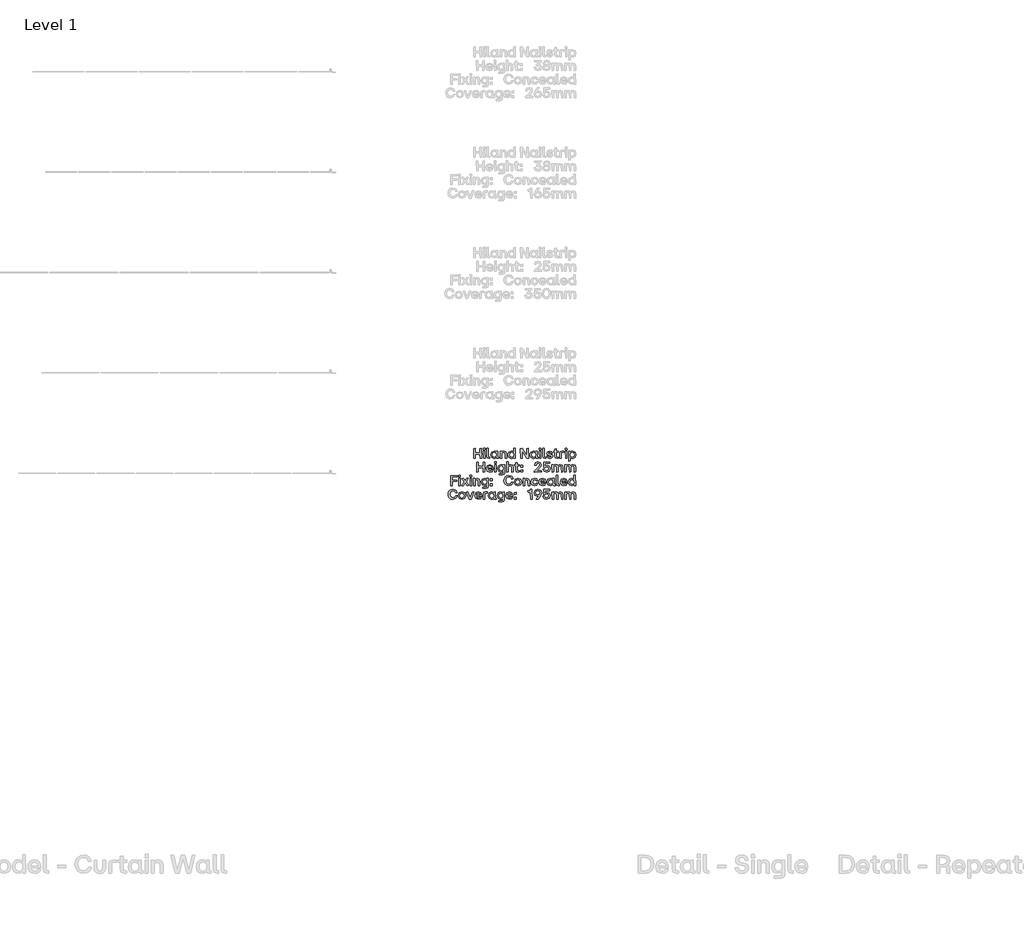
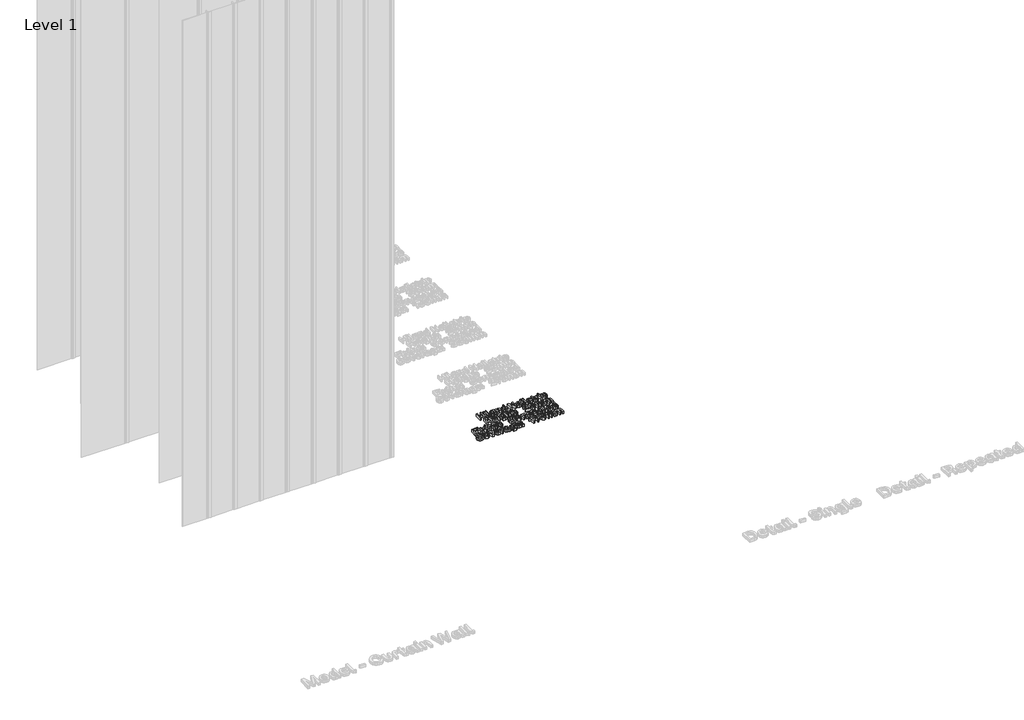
# One storey, part 25 of 64: 1 proxy.
"""IFC4 building model written with IfcOpenShell, lengths in millimetres."""

from ifc_helpers import new_model, si_unit, origin, origin_with_axes, place, context, project, spatial, polyline, outline, extrude, element, save

model = new_model("IFC4")

# Units and contexts
model_context = context("Model", 3, world=origin())
ifc_project = project(units=[si_unit("LENGTHUNIT", "METRE", prefix="MILLI")], contexts=[model_context])

# Site, building, storey
site = spatial("IfcSite", under=ifc_project)
building = spatial("IfcBuilding", under=site)
storey = spatial("IfcBuildingStorey", under=building, Name="Level 1", Elevation=0.0)

# Proxy
placement = place(None, origin())
element("IfcBuildingElementProxy", 1, Name="50mm", ObjectType="50mm", at=placement, inside=storey, context=model_context, shape_type="SweptSolid", body=[
    extrude(outline(polyline([(2520.0683519, -4433.5188866), (2519.3710201, -4411.5808277), (2495.5222721, -4411.5808277), (2495.5222721, -4432.8215548), (2488.0189817, -4433.5188866), (2487.2937566, -4384.2454206), (2494.7831003, -4383.5201955), (2495.5222721, -4404.6075096), (2519.3710201, -4404.6075096), (2519.3710201, -4384.2454206), (2526.8603638, -4383.5201955), (2527.5576956, -4432.8215548), (2520.0683519, -4433.5188866)])), origin_with_axes(), (0.0, 0.0, 1.0), 20.0),
    extrude(outline(polyline([(2537.6550603, -4433.5188866), (2536.9298352, -4397.8154977), (2544.1402462, -4397.1181659), (2544.837578, -4432.8215548), (2537.6550603, -4433.5188866)])), origin_with_axes(), (0.0, 0.0, 1.0), 20.0),
    extrude(outline(polyline([(2536.7206357, -4390.4516737), (2536.3719698, -4382.4044646), (2544.7678448, -4381.6652929), (2545.5070165, -4390.1030078), (2536.7206357, -4390.4516737)])), origin_with_axes(), (0.0, 0.0, 1.0), 20.0),
    extrude(outline(polyline([(2564.2373491, -4433.5188866), (2556.5388058, -4430.8690257), (2553.8889449, -4423.1565359), (2553.8889449, -4382.8228637), (2561.0993559, -4382.083692), (2561.7966877, -4427.2429003), (2568.4631799, -4427.2429003), (2569.1605117, -4432.8215548), (2564.2373491, -4433.5188866)])), origin_with_axes(), (0.0, 0.0, 1.0), 20.0),
    extrude(outline(polyline([(2589.3273478, -4433.9372857), (2577.5563867, -4428.8955767), (2573.1771429, -4415.3882594), (2577.5563867, -4401.7484491), (2589.3273478, -4396.6579269), (2595.9450267, -4398.2617901), (2600.9309491, -4402.6549805), (2601.2517218, -4397.8154977), (2608.4342395, -4397.1181659), (2609.1594646, -4427.2429003), (2613.1063626, -4427.2429003), (2613.8036944, -4432.8215548), (2607.8066408, -4433.5188866), (2603.151951, -4432.2113895), (2601.6003877, -4428.288898), (2596.2448794, -4432.3334225), (2589.3273478, -4433.9372857)]), holes=[polyline([(2581.2382987, -4415.3882594), (2583.9927594, -4424.2792401), (2591.5169696, -4427.521833), (2598.8807936, -4424.2931867), (2601.5306545, -4415.3882594), (2598.8598737, -4406.392679), (2591.5169696, -4403.1152195), (2583.9927594, -4406.392679), (2581.2382987, -4415.3882594)])]), origin_with_axes(), (0.0, 0.0, 1.0), 20.0),
    extrude(outline(polyline([(2620.6654395, -4433.5188866), (2619.9402144, -4397.8154977), (2626.8019595, -4397.1181659), (2627.4992913, -4402.6549805), (2632.6630334, -4398.1571903), (2639.2841989, -4396.6579269), (2648.8446181, -4400.8419178), (2652.1569442, -4413.0870644), (2652.1569442, -4432.8215548), (2644.9325866, -4433.5188866), (2644.2073616, -4413.0870644), (2642.2548325, -4405.7092939), (2636.0834459, -4403.3941522), (2629.8562728, -4405.7441604), (2627.8479572, -4413.0870644), (2627.8479572, -4432.8215548), (2620.6654395, -4433.5188866)])), origin_with_axes(), (0.0, 0.0, 1.0), 20.0),
    extrude(outline(polyline([(2675.0154811, -4433.9372857), (2663.2445201, -4428.8955767), (2658.8652763, -4415.3882594), (2663.2445201, -4401.7484491), (2675.0154811, -4396.6579269), (2681.63316, -4398.2617901), (2686.6190825, -4402.6549805), (2686.9398552, -4382.8228637), (2694.1223728, -4382.083692), (2694.8475979, -4432.8215548), (2687.9858529, -4433.5188866), (2687.2885211, -4428.0099653), (2681.9330127, -4432.3334225), (2675.0154811, -4433.9372857)]), holes=[polyline([(2666.9264321, -4415.3882594), (2669.6808927, -4424.2792401), (2677.205103, -4427.521833), (2684.568927, -4424.2931867), (2687.2187879, -4415.3882594), (2684.548007, -4406.392679), (2677.205103, -4403.1152195), (2669.6808927, -4406.392679), (2666.9264321, -4415.3882594)])]), origin_with_axes(), (0.0, 0.0, 1.0), 20.0),
    extrude(outline(polyline([(2721.8761791, -4433.5188866), (2721.150954, -4384.2454206), (2730.007068, -4383.5201955), (2753.2979506, -4420.7856077), (2753.5768834, -4384.2454206), (2760.7872943, -4383.5201955), (2761.4846261, -4432.8215548), (2752.670352, -4433.5188866), (2729.3794694, -4396.2395278), (2729.1005367, -4432.8215548), (2721.8761791, -4433.5188866)])), origin_with_axes(), (0.0, 0.0, 1.0), 20.0),
    extrude(outline(polyline([(2784.803402, -4433.9372857), (2773.032441, -4428.8955767), (2768.6531972, -4415.3882594), (2773.032441, -4401.7484491), (2784.803402, -4396.6579269), (2791.4210809, -4398.2617901), (2796.4070034, -4402.6549805), (2796.727776, -4397.8154977), (2803.9102937, -4397.1181659), (2804.6355188, -4427.2429003), (2808.5824169, -4427.2429003), (2809.2797487, -4432.8215548), (2803.2826951, -4433.5188866), (2798.6280052, -4432.2113895), (2797.076442, -4428.288898), (2791.7209336, -4432.3334225), (2784.803402, -4433.9372857)]), holes=[polyline([(2776.714353, -4415.3882594), (2779.4688136, -4424.2792401), (2786.9930239, -4427.521833), (2794.3568479, -4424.2931867), (2797.0067088, -4415.3882594), (2794.3359279, -4406.392679), (2786.9930239, -4403.1152195), (2779.4688136, -4406.392679), (2776.714353, -4415.3882594)])]), origin_with_axes(), (0.0, 0.0, 1.0), 20.0),
    extrude(outline(polyline([(2815.2070691, -4390.4516737), (2814.8584032, -4382.4044646), (2823.2542783, -4381.6652929), (2823.99345, -4390.1030078), (2815.2070691, -4390.4516737)])), origin_with_axes(), (0.0, 0.0, 1.0), 20.0),
    extrude(outline(polyline([(2816.1414938, -4433.5188866), (2815.4162687, -4397.8154977), (2822.6266796, -4397.1181659), (2823.3240115, -4432.8215548), (2816.1414938, -4433.5188866)])), origin_with_axes(), (0.0, 0.0, 1.0), 20.0),
    extrude(outline(polyline([(2842.7237825, -4433.5188866), (2835.0252393, -4430.8690257), (2832.3753784, -4423.1565359), (2832.3753784, -4382.8228637), (2839.5857894, -4382.083692), (2840.2831212, -4427.2429003), (2846.9496133, -4427.2429003), (2847.6469451, -4432.8215548), (2842.7237825, -4433.5188866)])), origin_with_axes(), (0.0, 0.0, 1.0), 20.0),
    extrude(outline(polyline([(2867.283809, -4433.9372857), (2856.5518724, -4430.9875721), (2852.0819755, -4422.5289372), (2859.0274004, -4421.7339789), (2862.109607, -4426.5455685), (2867.283809, -4427.8007657), (2871.7467327, -4426.6153017), (2873.420329, -4423.4354686), (2872.2209183, -4420.5764081), (2868.1624471, -4419.0841181), (2863.0719249, -4418.1775867), (2855.3454884, -4414.6351411), (2852.8490405, -4407.5363032), (2856.5100325, -4399.6215871), (2866.3772777, -4396.6579269), (2876.0701899, -4399.4123876), (2880.2960207, -4407.2294772), (2873.3505958, -4408.0244355), (2870.6031085, -4403.8613645), (2866.3772777, -4402.7944469), (2862.1235536, -4403.8962311), (2860.6591568, -4407.0900108), (2861.7051545, -4409.8584181), (2865.5125862, -4411.3716282), (2870.9517744, -4412.3897326), (2878.9641169, -4415.8763917), (2881.2304453, -4423.0170695), (2877.6043199, -4431.1130919), (2867.283809, -4433.9372857)])), origin_with_axes(), (0.0, 0.0, 1.0), 20.0),
    extrude(outline(polyline([(2903.0429845, -4433.5188866), (2895.3304946, -4430.8690257), (2892.6806337, -4423.1565359), (2892.6806337, -4403.3941522), (2886.4743806, -4403.3941522), (2885.7491555, -4397.8154977), (2892.6806337, -4397.1181659), (2892.6806337, -4387.104481), (2899.9049913, -4386.3792559), (2900.6023231, -4397.1181659), (2909.388704, -4397.1181659), (2910.1139291, -4402.6549805), (2900.6023231, -4403.3941522), (2900.6023231, -4427.2429003), (2909.388704, -4427.2429003), (2910.1139291, -4432.8215548), (2903.0429845, -4433.5188866)])), origin_with_axes(), (0.0, 0.0, 1.0), 20.0),
    extrude(outline(polyline([(2917.519593, -4433.5188866), (2916.8222612, -4407.4386768), (2919.4721221, -4399.7471068), (2927.1706653, -4397.1181659), (2937.3238165, -4397.1181659), (2938.0211483, -4403.1152195), (2924.7300039, -4403.8125513), (2924.7300039, -4432.8215548), (2917.519593, -4433.5188866)])), origin_with_axes(), (0.0, 0.0, 1.0), 20.0),
    extrude(outline(polyline([(2945.5662786, -4433.5188866), (2944.8410535, -4397.8154977), (2952.0514644, -4397.1181659), (2952.7487962, -4432.8215548), (2945.5662786, -4433.5188866)])), origin_with_axes(), (0.0, 0.0, 1.0), 20.0),
    extrude(outline(polyline([(2944.6318539, -4390.4516737), (2944.283188, -4382.4044646), (2952.6790631, -4381.6652929), (2953.4182348, -4390.1030078), (2944.6318539, -4390.4516737)])), origin_with_axes(), (0.0, 0.0, 1.0), 20.0),
    extrude(outline(polyline([(2962.5253883, -4447.0750171), (2961.8001632, -4397.8154977), (2968.6619083, -4397.1181659), (2969.3592401, -4402.5852473), (2974.7147484, -4398.2617901), (2981.63228, -4396.6579269), (2993.403241, -4401.7135826), (2997.7824848, -4415.2487931), (2993.403241, -4428.8607101), (2981.63228, -4433.9372857), (2975.0146011, -4432.3334225), (2970.0286786, -4427.9402321), (2969.707906, -4446.3776853), (2962.5253883, -4447.0750171)]), holes=[polyline([(2969.4289732, -4415.2487931), (2972.0997541, -4424.2443735), (2979.4426581, -4427.521833), (2986.9668684, -4424.2443735), (2989.7213291, -4415.2487931), (2986.9668684, -4406.3578124), (2979.4426581, -4403.1152195), (2972.0788341, -4406.3368925), (2969.4289732, -4415.2487931)])]), origin_with_axes(), (0.0, 0.0, 1.0), 20.0),
    extrude(outline(polyline([(2536.1348769, -4501.3705811), (2535.4375451, -4479.4325222), (2511.5887971, -4479.4325222), (2511.5887971, -4500.6732493), (2504.0855067, -4501.3705811), (2503.3602816, -4452.0971151), (2510.8496253, -4451.37189), (2511.5887971, -4472.459204), (2535.4375451, -4472.459204), (2535.4375451, -4452.0971151), (2542.9268888, -4451.37189), (2543.6242206, -4500.6732493), (2536.1348769, -4501.3705811)])), origin_with_axes(), (0.0, 0.0, 1.0), 20.0),
    extrude(outline(polyline([(2569.2720848, -4501.7889802), (2555.8693673, -4496.7472711), (2550.8625249, -4483.2399539), (2555.8484473, -4469.586197), (2569.2720848, -4464.5096214), (2581.552098, -4469.5164638), (2586.0498882, -4483.1702207), (2586.0498882, -4485.0809099), (2558.9934138, -4485.8200816), (2562.0616738, -4492.8631329), (2569.2720848, -4495.3735275), (2575.0599388, -4494.0974102), (2578.0584656, -4490.520098), (2585.1433569, -4489.9343393), (2580.4851803, -4498.6998002), (2569.2720848, -4501.7889802)]), holes=[polyline([(2559.063147, -4480.0322275), (2578.2676652, -4480.0322275), (2575.6247776, -4473.3866554), (2569.2720848, -4470.966914), (2562.1802202, -4473.2681089), (2559.063147, -4480.0322275)])]), origin_with_axes(), (0.0, 0.0, 1.0), 20.0),
    extrude(outline(polyline([(2592.9534732, -4458.3033682), (2592.6048073, -4450.2561591), (2601.0006823, -4449.5169873), (2601.7398541, -4457.9547023), (2592.9534732, -4458.3033682)])), origin_with_axes(), (0.0, 0.0, 1.0), 20.0),
    extrude(outline(polyline([(2593.8878978, -4501.3705811), (2593.1626727, -4465.6671922), (2600.3730837, -4464.9698603), (2601.0704155, -4500.6732493), (2593.8878978, -4501.3705811)])), origin_with_axes(), (0.0, 0.0, 1.0), 20.0),
    extrude(outline(polyline([(2615.5609706, -4514.9267115), (2614.8217989, -4509.348057), (2636.062526, -4508.6507252), (2636.062526, -4495.7919266), (2630.7558309, -4500.185117), (2624.1381519, -4501.7889802), (2612.3671909, -4496.7124045), (2607.9879471, -4483.1004875), (2612.3671909, -4469.565277), (2624.1381519, -4464.5096214), (2631.0556835, -4466.1134845), (2636.1322591, -4470.4369418), (2636.4111919, -4465.6671922), (2643.2450437, -4464.9698603), (2643.9702687, -4504.9269733), (2641.390141, -4512.3675038), (2633.9705305, -4514.9267115), (2615.5609706, -4514.9267115)]), holes=[polyline([(2616.0491029, -4483.1004875), (2618.8035636, -4492.0960679), (2626.3277738, -4495.3735275), (2633.6706778, -4492.0960679), (2636.3414587, -4483.1004875), (2633.6915978, -4474.1885869), (2626.3277738, -4470.966914), (2618.8035636, -4474.2095069), (2616.0491029, -4483.1004875)])]), origin_with_axes(), (0.0, 0.0, 1.0), 20.0),
    extrude(outline(polyline([(2653.6910742, -4501.3705811), (2652.9658492, -4450.6745581), (2660.1762601, -4449.9353864), (2660.8735919, -4470.2277422), (2665.9606275, -4465.9391516), (2672.3098337, -4464.5096214), (2681.8702529, -4468.6936122), (2685.182579, -4480.9387589), (2685.182579, -4500.6732493), (2677.9582214, -4501.3705811), (2677.2329963, -4480.9387589), (2675.2804672, -4473.5609883), (2669.1090807, -4471.2458467), (2662.8819076, -4473.5958549), (2660.8735919, -4480.9387589), (2660.8735919, -4500.6732493), (2653.6910742, -4501.3705811)])), origin_with_axes(), (0.0, 0.0, 1.0), 20.0),
    extrude(outline(polyline([(2708.459515, -4501.3705811), (2700.7470251, -4498.7207202), (2698.0971642, -4491.0082303), (2698.0971642, -4471.2458467), (2691.890911, -4471.2458467), (2691.165686, -4465.6671922), (2698.0971642, -4464.9698603), (2698.0971642, -4454.9561755), (2705.3215218, -4454.2309504), (2706.0188536, -4464.9698603), (2714.8052345, -4464.9698603), (2715.5304596, -4470.506675), (2706.0188536, -4471.2458467), (2706.0188536, -4495.0945947), (2714.8052345, -4495.0945947), (2715.5304596, -4500.6732493), (2708.459515, -4501.3705811)])), origin_with_axes(), (0.0, 0.0, 1.0), 20.0),
    extrude(outline(polyline([(2722.9361234, -4477.7310326), (2722.2387916, -4468.1078535), (2731.7225043, -4467.3686818), (2732.4477294, -4477.0337007), (2722.9361234, -4477.7310326)])), origin_with_axes(), (0.0, 0.0, 1.0), 20.0),
    extrude(outline(polyline([(2722.5874575, -4501.0219152), (2722.2387916, -4491.747402), (2731.7225043, -4491.0082303), (2732.4477294, -4500.6732493), (2722.5874575, -4501.0219152)])), origin_with_axes(), (0.0, 0.0, 1.0), 20.0),
    extrude(outline(polyline([(2790.4238964, -4501.3705811), (2789.6986714, -4496.5868848), (2807.0622335, -4480.590093), (2814.2098846, -4472.6753769), (2816.1972803, -4465.3882594), (2814.216858, -4459.7084918), (2808.2755909, -4457.8152359), (2801.4068725, -4459.8932847), (2798.5547854, -4466.4621504), (2791.1212283, -4467.1594822), (2795.7096716, -4454.9631488), (2808.2755909, -4450.9534909), (2820.1023385, -4454.8236824), (2824.4257957, -4465.3882594), (2821.7410682, -4475.1648515), (2812.5711549, -4485.5690422), (2803.1153355, -4494.0764903), (2825.8483526, -4494.355423), (2826.5456844, -4500.6732493), (2790.4238964, -4501.3705811)])), origin_with_axes(), (0.0, 0.0, 1.0), 20.0),
    extrude(outline(polyline([(2851.8030428, -4501.7889802), (2838.6025515, -4498.0931215), (2832.7937775, -4487.3821049), (2840.1576015, -4486.5871466), (2844.365999, -4493.0200326), (2851.8030428, -4494.9551284), (2859.2087066, -4492.2704009), (2861.802781, -4484.6625108), (2859.2226533, -4477.3614467), (2851.6635764, -4474.8719721), (2841.3012256, -4478.8049235), (2836.4617428, -4478.5259908), (2837.5077406, -4452.0971151), (2867.1443427, -4451.37189), (2867.8695678, -4457.6757696), (2844.1602861, -4458.3731014), (2843.3653278, -4471.0366471), (2848.5395299, -4468.8400519), (2854.2437041, -4468.0381203), (2865.7984923, -4472.4661774), (2870.0034031, -4484.6625108), (2865.1918136, -4497.27027), (2851.8030428, -4501.7889802)])), origin_with_axes(), (0.0, 0.0, 1.0), 20.0),
    extrude(outline(polyline([(2878.6224244, -4501.3705811), (2877.8971993, -4465.6671922), (2884.7589443, -4464.9698603), (2885.4562761, -4470.506675), (2890.4421986, -4466.0088848), (2896.8925179, -4464.5096214), (2903.1789642, -4466.0088848), (2907.394335, -4470.506675), (2913.2170557, -4466.0646713), (2920.4623332, -4464.5096214), (2929.7368464, -4468.6796656), (2932.9445727, -4480.9387589), (2932.9445727, -4500.6732493), (2925.7341617, -4501.3705811), (2925.0368299, -4480.9387589), (2923.154034, -4473.5609883), (2917.1848737, -4471.2458467), (2911.2784732, -4473.5958549), (2909.3747574, -4480.9387589), (2909.3747574, -4500.6732493), (2902.1643464, -4501.3705811), (2901.4670146, -4480.9387589), (2899.5981653, -4473.5609883), (2893.6847915, -4471.2458467), (2887.7086579, -4473.5958549), (2885.804942, -4480.9387589), (2885.804942, -4500.6732493), (2878.6224244, -4501.3705811)])), origin_with_axes(), (0.0, 0.0, 1.0), 20.0),
    extrude(outline(polyline([(2941.9959397, -4501.3705811), (2941.2707146, -4465.6671922), (2948.1324596, -4464.9698603), (2948.8297914, -4470.506675), (2953.8157139, -4466.0088848), (2960.2660332, -4464.5096214), (2966.5524795, -4466.0088848), (2970.7678503, -4470.506675), (2976.590571, -4466.0646713), (2983.8358485, -4464.5096214), (2993.1103617, -4468.6796656), (2996.318088, -4480.9387589), (2996.318088, -4500.6732493), (2989.1076771, -4501.3705811), (2988.4103452, -4480.9387589), (2986.5275493, -4473.5609883), (2980.558389, -4471.2458467), (2974.6519885, -4473.5958549), (2972.7482727, -4480.9387589), (2972.7482727, -4500.6732493), (2965.5378617, -4501.3705811), (2964.8405299, -4480.9387589), (2962.9716806, -4473.5609883), (2957.0583069, -4471.2458467), (2951.0821732, -4473.5958549), (2949.1784574, -4480.9387589), (2949.1784574, -4500.6732493), (2941.9959397, -4501.3705811)])), origin_with_axes(), (0.0, 0.0, 1.0), 20.0),
    extrude(outline(polyline([(2374.6607219, -4569.2222755), (2373.9354969, -4519.9488095), (2405.5246281, -4519.2235844), (2406.2219599, -4525.527464), (2382.1640123, -4526.2247958), (2382.1640123, -4541.287163), (2404.0881245, -4541.287163), (2404.7854563, -4547.5631494), (2382.1640123, -4548.3023211), (2382.1640123, -4568.5249437), (2374.6607219, -4569.2222755)])), origin_with_axes(), (0.0, 0.0, 1.0), 20.0),
    extrude(outline(polyline([(2414.4783686, -4569.2222755), (2413.7531435, -4533.5188866), (2420.9635544, -4532.8215548), (2421.6608863, -4568.5249437), (2414.4783686, -4569.2222755)])), origin_with_axes(), (0.0, 0.0, 1.0), 20.0),
    extrude(outline(polyline([(2413.5439439, -4526.1550627), (2413.195278, -4518.1078535), (2421.5911531, -4517.3686818), (2422.3303248, -4525.8063967), (2413.5439439, -4526.1550627)])), origin_with_axes(), (0.0, 0.0, 1.0), 20.0),
    extrude(outline(polyline([(2428.5784179, -4569.2222755), (2441.3395901, -4550.7429824), (2429.1362833, -4533.658353), (2437.1277059, -4532.8215548), (2445.9140868, -4544.815662), (2454.1426022, -4533.2399539), (2462.2595445, -4532.8215548), (2450.6559431, -4549.9340775), (2463.696048, -4568.3436374), (2455.7046254, -4569.2222755), (2445.9838199, -4555.7916648), (2436.7093068, -4568.8038764), (2428.5784179, -4569.2222755)])), origin_with_axes(), (0.0, 0.0, 1.0), 20.0),
    extrude(outline(polyline([(2470.7112061, -4569.2222755), (2469.985981, -4533.5188866), (2477.196392, -4532.8215548), (2477.8937238, -4568.5249437), (2470.7112061, -4569.2222755)])), origin_with_axes(), (0.0, 0.0, 1.0), 20.0),
    extrude(outline(polyline([(2469.7767815, -4526.1550627), (2469.4281156, -4518.1078535), (2477.8239906, -4517.3686818), (2478.5631623, -4525.8063967), (2469.7767815, -4526.1550627)])), origin_with_axes(), (0.0, 0.0, 1.0), 20.0),
    extrude(outline(polyline([(2487.6703158, -4569.2222755), (2486.9450907, -4533.5188866), (2493.8068358, -4532.8215548), (2494.5041676, -4538.3583694), (2499.6679097, -4533.8605792), (2506.2890753, -4532.3613158), (2515.8494944, -4536.5453067), (2519.1618206, -4548.7904534), (2519.1618206, -4568.5249437), (2511.937463, -4569.2222755), (2511.2122379, -4548.7904534), (2509.2597088, -4541.4126828), (2503.0883222, -4539.0975411), (2496.8611491, -4541.4475493), (2494.8528335, -4548.7904534), (2494.8528335, -4568.5249437), (2487.6703158, -4569.2222755)])), origin_with_axes(), (0.0, 0.0, 1.0), 20.0),
    extrude(outline(polyline([(2533.4431761, -4582.778406), (2532.7040044, -4577.1997515), (2553.9447315, -4576.5024197), (2553.9447315, -4563.643621), (2548.6380364, -4568.0368114), (2542.0203574, -4569.6406746), (2530.2493964, -4564.564099), (2525.8701526, -4550.952182), (2530.2493964, -4537.4169715), (2542.0203574, -4532.3613158), (2548.9378891, -4533.965179), (2554.0144647, -4538.2886362), (2554.2933974, -4533.5188866), (2561.1272492, -4532.8215548), (2561.8524743, -4572.7786678), (2559.2723465, -4580.2191982), (2551.852736, -4582.778406), (2533.4431761, -4582.778406)]), holes=[polyline([(2533.9313084, -4550.952182), (2536.6857691, -4559.9477624), (2544.2099793, -4563.2252219), (2551.5528834, -4559.9477624), (2554.2236642, -4550.952182), (2551.5738033, -4542.0402814), (2544.2099793, -4538.8186084), (2536.6857691, -4542.0612013), (2533.9313084, -4550.952182)])]), origin_with_axes(), (0.0, 0.0, 1.0), 20.0),
    extrude(outline(polyline([(2571.1967206, -4545.582727), (2570.4993888, -4535.959548), (2579.9831014, -4535.2203762), (2580.7083265, -4544.8853952), (2571.1967206, -4545.582727)])), origin_with_axes(), (0.0, 0.0, 1.0), 20.0),
    extrude(outline(polyline([(2570.8480547, -4568.8736096), (2570.4993888, -4559.5990965), (2579.9831014, -4558.8599248), (2580.7083265, -4568.5249437), (2570.8480547, -4568.8736096)])), origin_with_axes(), (0.0, 0.0, 1.0), 20.0),
    extrude(outline(polyline([(2662.9516407, -4569.6406746), (2652.9449292, -4567.9269817), (2645.2394126, -4562.7859029), (2640.3232234, -4554.7160305), (2638.6844936, -4544.2159567), (2640.33717, -4533.8919591), (2645.2951992, -4525.7924501), (2653.0146624, -4520.5520015), (2662.9516407, -4518.8051853), (2677.1283965, -4523.4215219), (2684.0807947, -4535.7085085), (2676.7588107, -4536.5174134), (2671.5950686, -4528.3272513), (2662.9516407, -4525.8063967), (2651.2922528, -4530.743506), (2647.0524754, -4544.2159567), (2651.2713328, -4557.7999804), (2662.9516407, -4562.6673565), (2671.7659149, -4560.1813685), (2676.4519847, -4552.7234048), (2683.8715952, -4552.0679129), (2677.4073293, -4565.0382846), (2662.9516407, -4569.6406746)])), origin_with_axes(), (0.0, 0.0, 1.0), 20.0),
    extrude(outline(polyline([(2708.306102, -4569.6406746), (2695.1474506, -4564.5152858), (2690.1057416, -4551.0916483), (2695.1613973, -4537.5564378), (2708.306102, -4532.3613158), (2721.5763264, -4537.5564378), (2726.6459287, -4551.0916483), (2721.5763264, -4564.5152858), (2708.306102, -4569.6406746)]), holes=[polyline([(2698.1668974, -4551.0916483), (2700.8655715, -4559.9965756), (2708.306102, -4563.2252219), (2715.8442589, -4559.982629), (2718.5987195, -4551.0916483), (2715.8582055, -4542.0960679), (2708.306102, -4538.8186084), (2700.8655715, -4542.0960679), (2698.1668974, -4551.0916483)])]), origin_with_axes(), (0.0, 0.0, 1.0), 20.0),
    extrude(outline(polyline([(2734.916284, -4569.2222755), (2734.1910589, -4533.5188866), (2741.052804, -4532.8215548), (2741.7501358, -4538.3583694), (2746.9138779, -4533.8605792), (2753.5350435, -4532.3613158), (2763.0954626, -4536.5453067), (2766.4077887, -4548.7904534), (2766.4077887, -4568.5249437), (2759.1834311, -4569.2222755), (2758.4582061, -4548.7904534), (2756.505677, -4541.4126828), (2750.3342904, -4539.0975411), (2744.1071173, -4541.4475493), (2742.0988017, -4548.7904534), (2742.0988017, -4568.5249437), (2734.916284, -4569.2222755)])), origin_with_axes(), (0.0, 0.0, 1.0), 20.0),
    extrude(outline(polyline([(2791.4559475, -4569.6406746), (2778.1229632, -4564.5989656), (2773.1161208, -4551.0916483), (2778.1926964, -4537.5564378), (2791.4559475, -4532.3613158), (2802.5295767, -4535.7991616), (2807.7456187, -4544.8853952), (2800.7304607, -4545.6524602), (2797.1601218, -4540.3527384), (2791.4559475, -4538.8186084), (2783.8968707, -4542.0960679), (2781.1772766, -4551.0916483), (2783.9108173, -4560.0174956), (2791.4559475, -4563.2252219), (2797.3344547, -4561.7608251), (2800.3120616, -4557.0189688), (2807.3969528, -4556.3495302), (2802.7387763, -4566.2028288), (2791.4559475, -4569.6406746)])), origin_with_axes(), (0.0, 0.0, 1.0), 20.0),
    extrude(outline(polyline([(2831.6919932, -4569.6406746), (2818.2892758, -4564.5989656), (2813.2824333, -4551.0916483), (2818.2683558, -4537.4378914), (2831.6919932, -4532.3613158), (2843.9720065, -4537.3681582), (2848.4697967, -4551.0219152), (2848.4697967, -4552.9326043), (2821.4133223, -4553.6717761), (2824.4815823, -4560.7148274), (2831.6919932, -4563.2252219), (2837.4798473, -4561.9491047), (2840.4783741, -4558.3717925), (2847.5632653, -4557.7860338), (2842.9050888, -4566.5514947), (2831.6919932, -4569.6406746)]), holes=[polyline([(2821.4830555, -4547.883922), (2840.6875736, -4547.883922), (2838.0446861, -4541.2383498), (2831.6919932, -4538.8186084), (2824.6001287, -4541.1198034), (2821.4830555, -4547.883922)])]), origin_with_axes(), (0.0, 0.0, 1.0), 20.0),
    extrude(outline(polyline([(2869.5989507, -4569.6406746), (2857.8279896, -4564.5989656), (2853.4487458, -4551.0916483), (2857.8279896, -4537.4518381), (2869.5989507, -4532.3613158), (2876.2166296, -4533.965179), (2881.2025521, -4538.3583694), (2881.5233247, -4533.5188866), (2888.7058424, -4532.8215548), (2889.4310675, -4562.9462892), (2893.3779655, -4562.9462892), (2894.0752974, -4568.5249437), (2888.0782438, -4569.2222755), (2883.4235539, -4567.9147784), (2881.8719906, -4563.9922869), (2876.5164823, -4568.0368114), (2869.5989507, -4569.6406746)]), holes=[polyline([(2861.5099016, -4551.0916483), (2864.2643623, -4559.982629), (2871.7885726, -4563.2252219), (2879.1523965, -4559.9965756), (2881.8022574, -4551.0916483), (2879.1314766, -4542.0960679), (2871.7885726, -4538.8186084), (2864.2643623, -4542.0960679), (2861.5099016, -4551.0916483)])]), origin_with_axes(), (0.0, 0.0, 1.0), 20.0),
    extrude(outline(polyline([(2910.5602215, -4569.2222755), (2902.8616782, -4566.5724146), (2900.2118173, -4558.8599248), (2900.2118173, -4518.5262526), (2907.4222283, -4517.7870809), (2908.1195601, -4562.9462892), (2914.7860523, -4562.9462892), (2915.4833841, -4568.5249437), (2910.5602215, -4569.2222755)])), origin_with_axes(), (0.0, 0.0, 1.0), 20.0),
    extrude(outline(polyline([(2937.9095752, -4569.6406746), (2924.5068578, -4564.5989656), (2919.5000153, -4551.0916483), (2924.4859378, -4537.4378914), (2937.9095752, -4532.3613158), (2950.1895885, -4537.3681582), (2954.6873787, -4551.0219152), (2954.6873787, -4552.9326043), (2927.6309043, -4553.6717761), (2930.6991643, -4560.7148274), (2937.9095752, -4563.2252219), (2943.6974293, -4561.9491047), (2946.6959561, -4558.3717925), (2953.7808473, -4557.7860338), (2949.1226708, -4566.5514947), (2937.9095752, -4569.6406746)]), holes=[polyline([(2927.7006375, -4547.883922), (2946.9051556, -4547.883922), (2944.2622681, -4541.2383498), (2937.9095752, -4538.8186084), (2930.8177107, -4541.1198034), (2927.7006375, -4547.883922)])]), origin_with_axes(), (0.0, 0.0, 1.0), 20.0),
    extrude(outline(polyline([(2975.8165327, -4569.6406746), (2964.0455716, -4564.5989656), (2959.6663278, -4551.0916483), (2964.0455716, -4537.4518381), (2975.8165327, -4532.3613158), (2982.4342116, -4533.965179), (2987.4201341, -4538.3583694), (2987.7409067, -4518.5262526), (2994.9234244, -4517.7870809), (2995.6486495, -4568.5249437), (2988.7869044, -4569.2222755), (2988.0895726, -4563.7133542), (2982.7340643, -4568.0368114), (2975.8165327, -4569.6406746)]), holes=[polyline([(2967.7274836, -4551.0916483), (2970.4819443, -4559.982629), (2978.0061546, -4563.2252219), (2985.3699785, -4559.9965756), (2988.0198394, -4551.0916483), (2985.3490586, -4542.0960679), (2978.0061546, -4538.8186084), (2970.4819443, -4542.0960679), (2967.7274836, -4551.0916483)])]), origin_with_axes(), (0.0, 0.0, 1.0), 20.0),
    extrude(outline(polyline([(2384.4652073, -4637.4923691), (2374.4584957, -4635.7786761), (2366.7529792, -4630.6375973), (2361.8367899, -4622.5677249), (2360.1980601, -4612.0676511), (2361.8507365, -4601.7436536), (2366.8087657, -4593.6441446), (2374.5282289, -4588.403696), (2384.4652073, -4586.6568798), (2398.6419631, -4591.2732164), (2405.5943612, -4603.560203), (2398.2723772, -4604.3691079), (2393.1086351, -4596.1789457), (2384.4652073, -4593.6580912), (2372.8058193, -4598.5952004), (2368.5660419, -4612.0676511), (2372.7848994, -4625.6516749), (2384.4652073, -4630.5190509), (2393.2794814, -4628.033063), (2397.9655512, -4620.5750992), (2405.3851617, -4619.9196073), (2398.9208958, -4632.8899791), (2384.4652073, -4637.4923691)])), origin_with_axes(), (0.0, 0.0, 1.0), 20.0),
    extrude(outline(polyline([(2429.8196685, -4637.4923691), (2416.6610171, -4632.3669802), (2411.6193081, -4618.9433428), (2416.6749638, -4605.4081323), (2429.8196685, -4600.2130103), (2443.0898929, -4605.4081323), (2448.1594952, -4618.9433428), (2443.0898929, -4632.3669802), (2429.8196685, -4637.4923691)]), holes=[polyline([(2419.6804639, -4618.9433428), (2422.379138, -4627.8482701), (2429.8196685, -4631.0769164), (2437.3578254, -4627.8343234), (2440.1122861, -4618.9433428), (2437.371772, -4609.9477624), (2429.8196685, -4606.6703029), (2422.379138, -4609.9477624), (2419.6804639, -4618.9433428)])]), origin_with_axes(), (0.0, 0.0, 1.0), 20.0),
    extrude(outline(polyline([(2466.2622291, -4637.07397), (2451.8693005, -4601.5100474), (2459.1215513, -4600.6732493), (2470.5577931, -4630.5887841), (2481.3943295, -4601.2311147), (2488.7581535, -4600.6732493), (2475.6483153, -4636.5161045), (2466.2622291, -4637.07397)])), origin_with_axes(), (0.0, 0.0, 1.0), 20.0),
    extrude(outline(polyline([(2511.2540778, -4637.4923691), (2497.8513603, -4632.45066), (2492.8445179, -4618.9433428), (2497.8304404, -4605.2895859), (2511.2540778, -4600.2130103), (2523.534091, -4605.2198527), (2528.0318812, -4618.8736096), (2528.0318812, -4620.7842988), (2500.9754068, -4621.5234705), (2504.0436668, -4628.5665218), (2511.2540778, -4631.0769164), (2517.0419319, -4629.8007992), (2520.0404587, -4626.2234869), (2527.1253499, -4625.6377282), (2522.4671734, -4634.4031891), (2511.2540778, -4637.4923691)]), holes=[polyline([(2501.04514, -4615.7356165), (2520.2496582, -4615.7356165), (2517.6067706, -4609.0900443), (2511.2540778, -4606.6703029), (2504.1622132, -4608.9714978), (2501.04514, -4615.7356165)])]), origin_with_axes(), (0.0, 0.0, 1.0), 20.0),
    extrude(outline(polyline([(2535.4933317, -4637.07397), (2534.7959999, -4610.9937601), (2537.4458607, -4603.3021902), (2545.144404, -4600.6732493), (2555.2975552, -4600.6732493), (2555.994887, -4606.6703029), (2542.7037426, -4607.3676347), (2542.7037426, -4636.3766382), (2535.4933317, -4637.07397)])), origin_with_axes(), (0.0, 0.0, 1.0), 20.0),
    extrude(outline(polyline([(2576.8311616, -4637.4923691), (2565.0602006, -4632.45066), (2560.6809568, -4618.9433428), (2565.0602006, -4605.3035325), (2576.8311616, -4600.2130103), (2583.4488406, -4601.8168734), (2588.434763, -4606.2100639), (2588.7555357, -4601.3705811), (2595.9380534, -4600.6732493), (2596.6632784, -4630.7979836), (2600.6101765, -4630.7979836), (2601.3075083, -4636.3766382), (2595.3104547, -4637.07397), (2590.6557649, -4635.7664728), (2589.1042016, -4631.8439814), (2583.7486932, -4635.8885059), (2576.8311616, -4637.4923691)]), holes=[polyline([(2568.7421126, -4618.9433428), (2571.4965733, -4627.8343234), (2579.0207835, -4631.0769164), (2586.3846075, -4627.8482701), (2589.0344684, -4618.9433428), (2586.3636875, -4609.9477624), (2579.0207835, -4606.6703029), (2571.4965733, -4609.9477624), (2568.7421126, -4618.9433428)])]), origin_with_axes(), (0.0, 0.0, 1.0), 20.0),
    extrude(outline(polyline([(2612.8832164, -4650.6301005), (2612.1440447, -4645.0514459), (2633.3847718, -4644.3541141), (2633.3847718, -4631.4953155), (2628.0780767, -4635.8885059), (2621.4603978, -4637.4923691), (2609.6894367, -4632.4157935), (2605.3101929, -4618.8038764), (2609.6894367, -4605.2686659), (2621.4603978, -4600.2130103), (2628.3779294, -4601.8168734), (2633.454505, -4606.1403307), (2633.7334377, -4601.3705811), (2640.5672895, -4600.6732493), (2641.2925146, -4640.6303622), (2638.7123869, -4648.0708927), (2631.2927764, -4650.6301005), (2612.8832164, -4650.6301005)]), holes=[polyline([(2613.3713487, -4618.8038764), (2616.1258094, -4627.7994568), (2623.6500197, -4631.0769164), (2630.9929237, -4627.7994568), (2633.6637045, -4618.8038764), (2631.0138436, -4609.8919758), (2623.6500197, -4606.6703029), (2616.1258094, -4609.9128958), (2613.3713487, -4618.8038764)])]), origin_with_axes(), (0.0, 0.0, 1.0), 20.0),
    extrude(outline(polyline([(2666.5638195, -4637.4923691), (2653.1611021, -4632.45066), (2648.1542596, -4618.9433428), (2653.1401821, -4605.2895859), (2666.5638195, -4600.2130103), (2678.8438328, -4605.2198527), (2683.341623, -4618.8736096), (2683.341623, -4620.7842988), (2656.2851486, -4621.5234705), (2659.3534086, -4628.5665218), (2666.5638195, -4631.0769164), (2672.3516736, -4629.8007992), (2675.3502004, -4626.2234869), (2682.4350916, -4625.6377282), (2677.7769151, -4634.4031891), (2666.5638195, -4637.4923691)]), holes=[polyline([(2656.3548818, -4615.7356165), (2675.5593999, -4615.7356165), (2672.9165124, -4609.0900443), (2666.5638195, -4606.6703029), (2659.471955, -4608.9714978), (2656.3548818, -4615.7356165)])]), origin_with_axes(), (0.0, 0.0, 1.0), 20.0),
    extrude(outline(polyline([(2690.8030734, -4613.4344215), (2690.1057416, -4603.8112424), (2699.5894543, -4603.0720707), (2700.3146794, -4612.7370896), (2690.8030734, -4613.4344215)])), origin_with_axes(), (0.0, 0.0, 1.0), 20.0),
    extrude(outline(polyline([(2690.4544075, -4636.7253041), (2690.1057416, -4627.4507909), (2699.5894543, -4626.7116192), (2700.3146794, -4636.3766382), (2690.4544075, -4636.7253041)])), origin_with_axes(), (0.0, 0.0, 1.0), 20.0),
    extrude(outline(polyline([(2771.1635917, -4637.07397), (2770.42442, -4602.0679129), (2759.3786841, -4602.0679129), (2758.6395123, -4595.7919266), (2770.7730859, -4595.0945947), (2770.7730859, -4587.800504), (2778.0671767, -4587.0752789), (2778.7924018, -4636.3766382), (2771.1635917, -4637.07397)])), origin_with_axes(), (0.0, 0.0, 1.0), 20.0),
    extrude(outline(polyline([(2793.6455694, -4591.1895366), (2807.5782591, -4586.6568798), (2821.4900288, -4591.1895366), (2826.4759513, -4603.8112424), (2824.7326217, -4612.5069701), (2819.1818605, -4622.3602687), (2809.1402823, -4636.6555709), (2800.8420338, -4637.07397), (2812.2085423, -4619.3617419), (2805.1375977, -4620.7842988), (2793.1574372, -4616.1470422), (2788.638727, -4603.8112424), (2793.6455694, -4591.1895366)]), holes=[polyline([(2799.6286764, -4596.2103256), (2796.8393491, -4603.8042691), (2799.6286764, -4611.4051859), (2807.5782591, -4614.0899134), (2815.402322, -4611.3912392), (2818.2753291, -4603.8112424), (2815.5069218, -4596.2033523), (2807.5782591, -4593.5186248), (2799.6286764, -4596.2103256)])]), origin_with_axes(), (0.0, 0.0, 1.0), 20.0),
    extrude(outline(polyline([(2851.8030428, -4637.4923691), (2838.6025515, -4633.7965104), (2832.7937775, -4623.0854938), (2840.1576015, -4622.2905355), (2844.365999, -4628.7234215), (2851.8030428, -4630.6585173), (2859.2087066, -4627.9737898), (2861.802781, -4620.3658997), (2859.2226533, -4613.0648356), (2851.6635764, -4610.575361), (2841.3012256, -4614.5083125), (2836.4617428, -4614.2293797), (2837.5077406, -4587.800504), (2867.1443427, -4587.0752789), (2867.8695678, -4593.3791585), (2844.1602861, -4594.0764903), (2843.3653278, -4606.740036), (2848.5395299, -4604.5434408), (2854.2437041, -4603.7415092), (2865.7984923, -4608.1695663), (2870.0034031, -4620.3658997), (2865.1918136, -4632.9736589), (2851.8030428, -4637.4923691)])), origin_with_axes(), (0.0, 0.0, 1.0), 20.0),
    extrude(outline(polyline([(2878.6224244, -4637.07397), (2877.8971993, -4601.3705811), (2884.7589443, -4600.6732493), (2885.4562761, -4606.2100639), (2890.4421986, -4601.7122737), (2896.8925179, -4600.2130103), (2903.1789642, -4601.7122737), (2907.394335, -4606.2100639), (2913.2170557, -4601.7680602), (2920.4623332, -4600.2130103), (2929.7368464, -4604.3830545), (2932.9445727, -4616.6421478), (2932.9445727, -4636.3766382), (2925.7341617, -4637.07397), (2925.0368299, -4616.6421478), (2923.154034, -4609.2643772), (2917.1848737, -4606.9492356), (2911.2784732, -4609.2992438), (2909.3747574, -4616.6421478), (2909.3747574, -4636.3766382), (2902.1643464, -4637.07397), (2901.4670146, -4616.6421478), (2899.5981653, -4609.2643772), (2893.6847915, -4606.9492356), (2887.7086579, -4609.2992438), (2885.804942, -4616.6421478), (2885.804942, -4636.3766382), (2878.6224244, -4637.07397)])), origin_with_axes(), (0.0, 0.0, 1.0), 20.0),
    extrude(outline(polyline([(2941.9959397, -4637.07397), (2941.2707146, -4601.3705811), (2948.1324596, -4600.6732493), (2948.8297914, -4606.2100639), (2953.8157139, -4601.7122737), (2960.2660332, -4600.2130103), (2966.5524795, -4601.7122737), (2970.7678503, -4606.2100639), (2976.590571, -4601.7680602), (2983.8358485, -4600.2130103), (2993.1103617, -4604.3830545), (2996.318088, -4616.6421478), (2996.318088, -4636.3766382), (2989.1076771, -4637.07397), (2988.4103452, -4616.6421478), (2986.5275493, -4609.2643772), (2980.558389, -4606.9492356), (2974.6519885, -4609.2992438), (2972.7482727, -4616.6421478), (2972.7482727, -4636.3766382), (2965.5378617, -4637.07397), (2964.8405299, -4616.6421478), (2962.9716806, -4609.2643772), (2957.0583069, -4606.9492356), (2951.0821732, -4609.2992438), (2949.1784574, -4616.6421478), (2949.1784574, -4636.3766382), (2941.9959397, -4637.07397)])), origin_with_axes(), (0.0, 0.0, 1.0), 20.0),
])

save(model, "model.ifc")
